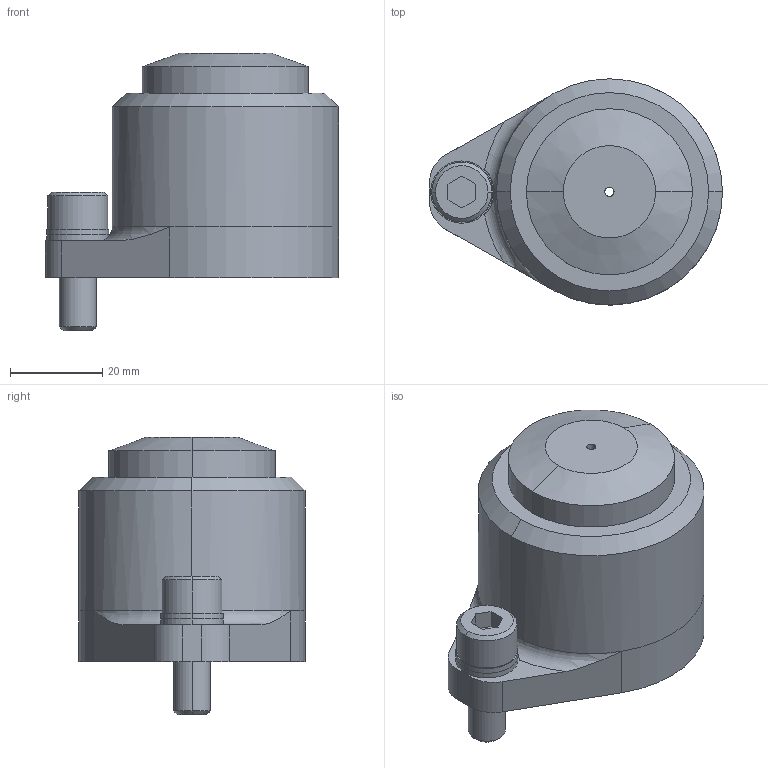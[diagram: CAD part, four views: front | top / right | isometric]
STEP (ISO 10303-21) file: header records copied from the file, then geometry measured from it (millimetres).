
FILE_DESCRIPTION(/* description */ (''),/* implementation_level */ '2;1');
FILE_NAME(/* name */ '3d_sprb13-g_05392_r00.stp',/* time_stamp */ '2011-01-10T14:10:08+09:00',/* author */ ('MISUMI'),/* organization */ (''),/* preprocessor_version */ 'ST-DEVELOPER v11',/* originating_system */ 'UGS - NX 5.0',/* authorisation */ '');
FILE_SCHEMA (('CONFIG_CONTROL_DESIGN'));
Length unit declared in the file: millimetre
Products named in the file (1): 3d_sprb13-g_05392_r00
Bounding box: 63.5 x 49 x 60.1 mm (x, y, z)
Volume: 77709.2 mm3; surface area: 30747.5 mm2
Topology: 6 solids, 6 shells, 74 faces, 164 edges, 106 vertices
Faces by surface type: cylinder 38, plane 26, cone 8, torus 2
Entity records: 2188 total; most frequent: DIRECTION 398, CARTESIAN_POINT 365, ORIENTED_EDGE 328, EDGE_CURVE 164, AXIS2_PLACEMENT_3D 163, VERTEX_POINT 106, EDGE_LOOP 90, CIRCLE 88
